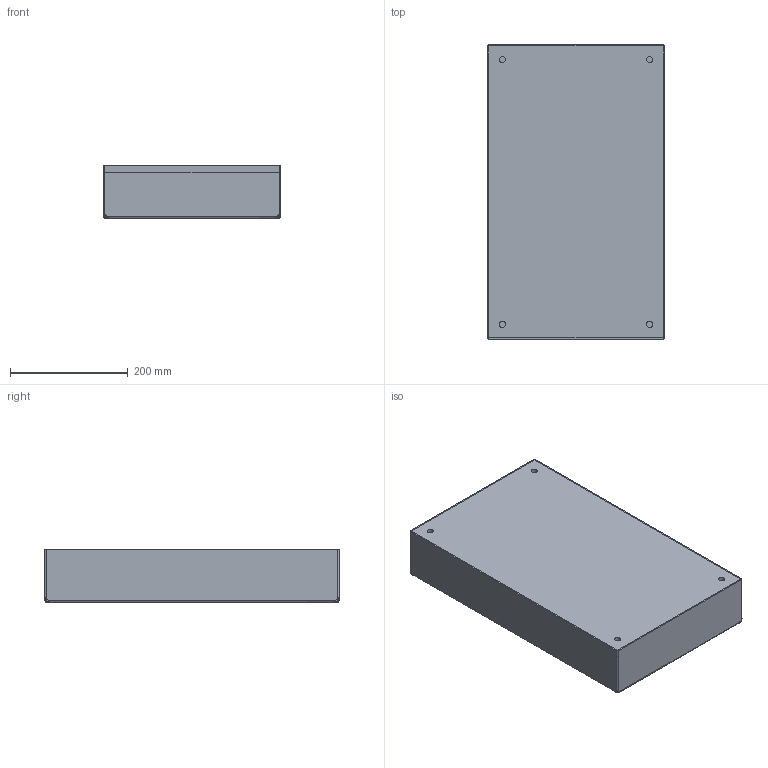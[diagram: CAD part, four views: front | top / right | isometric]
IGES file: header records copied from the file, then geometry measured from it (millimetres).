
Global section: file name: SMB-30-50; native system: unknown; preprocessor: unknown; author: unknown; organization: unknown; date: 20230705.141357; units: millimetre
Bounding box: 300 x 500 x 90 mm (x, y, z)
Volume: 2333513.2 mm3; surface area: 892462.2 mm2
Topology: 2 solids, 2 shells, 57 faces, 140 edges, 88 vertices
Faces by surface type: bspline 57
